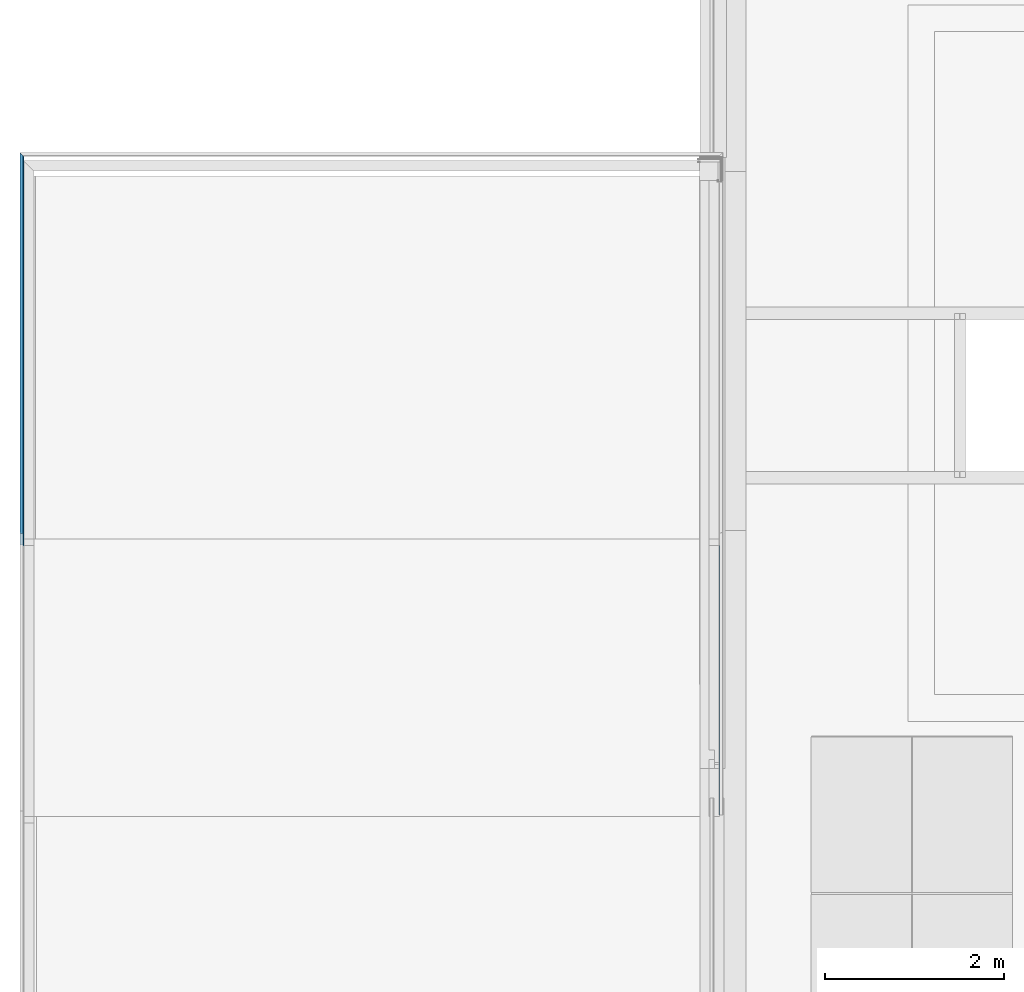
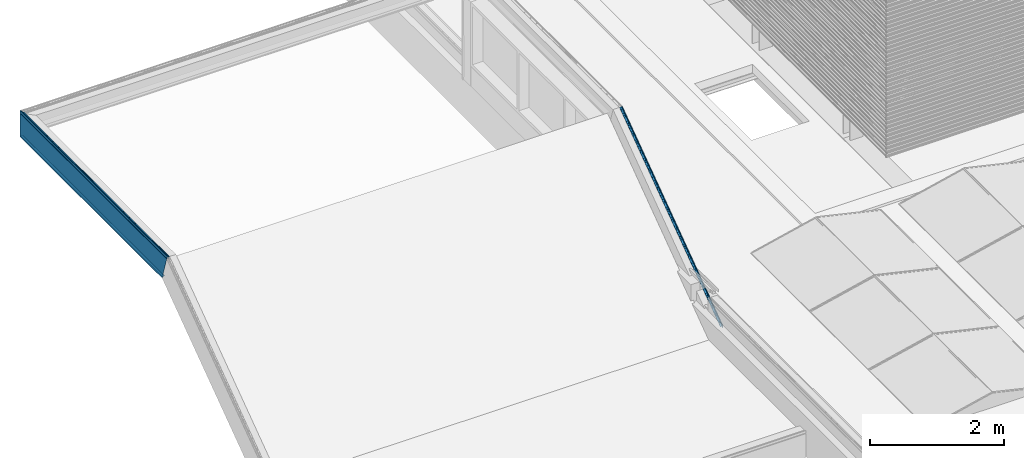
# One storey, part 20 of 63: 4 building element parts, 2 elements without a shape of their own.
"""IFC2X3 building model written with IfcOpenShell, lengths in millimetres."""

from ifc_helpers import new_model, entity, si_unit, converted_unit, derived_unit, money_unit, direction, frame, origin_with_axes, place, context, subcontext, project, spatial, faceted_brep, material, type_object, element, aggregate, save


model = new_model("IFC2X3")

# Units and contexts
model_context = context("Model", 3, precision=0.01, world=origin_with_axes(), true_north=direction((0.0, 1.0)))
body_context = subcontext(model_context, "Body", "Model", "MODEL_VIEW")
ifc_project = project(units=[si_unit("LENGTHUNIT", "METRE", prefix="MILLI"), si_unit("AREAUNIT", "SQUARE_METRE"), si_unit("VOLUMEUNIT", "CUBIC_METRE"), converted_unit("PLANEANGLEUNIT", "DEGREE", entity("IfcPlaneAngleMeasure", 0.0174532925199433), si_unit("PLANEANGLEUNIT", "RADIAN"), dimensions=[0, 0, 0, 0, 0, 0, 0]), money_unit("EUR"), converted_unit("TIMEUNIT", "Year", entity("IfcTimeMeasure", 31557600.0), si_unit("TIMEUNIT", "SECOND"), dimensions=[0, 0, 1, 0, 0, 0, 0]), si_unit("MASSUNIT", "GRAM", prefix="KILO"), si_unit("THERMODYNAMICTEMPERATUREUNIT", "DEGREE_CELSIUS"), si_unit("LUMINOUSINTENSITYUNIT", "LUMEN"), si_unit("ENERGYUNIT", "JOULE", prefix="MEGA"), derived_unit("THERMALCONDUCTANCEUNIT", [(si_unit("POWERUNIT", "WATT"), 1), (si_unit("LENGTHUNIT", "METRE"), -1), (si_unit("THERMODYNAMICTEMPERATUREUNIT", "KELVIN"), -1)]), derived_unit("SPECIFICHEATCAPACITYUNIT", [(si_unit("ENERGYUNIT", "JOULE"), 1), (si_unit("MASSUNIT", "GRAM", prefix="KILO"), -1), (si_unit("THERMODYNAMICTEMPERATUREUNIT", "KELVIN"), -1)]), derived_unit("MASSDENSITYUNIT", [(si_unit("MASSUNIT", "GRAM", prefix="KILO"), 1), (si_unit("VOLUMEUNIT", "CUBIC_METRE"), -1)])], contexts=[model_context])

# Site, building, storey
site_placement = place(None, origin_with_axes())
site = spatial("IfcSite", under=ifc_project, at=site_placement, Name="<site naam>", CompositionType="ELEMENT")
building_placement = place(site_placement, origin_with_axes())
building = spatial("IfcBuilding", under=site, at=building_placement, Name="<Naam gebouw>", CompositionType="ELEMENT")
storey_placement = place(building_placement, frame((0.0, 0.0, 12770.0), z_axis=(0.0, 0.0, 1.0), x_axis=(1.0, 0.0, 0.0)))
storey = spatial("IfcBuildingStorey", under=building, at=storey_placement, Name="04 4e verdieping", CompositionType="ELEMENT", Elevation=12770.0)

# Beam, building element parts
beam_type = type_object("IfcBeamType", Name="Aluminium daktrim (hoofdtrap) 45 x 485", PredefinedType="BEAM")
beam_1_placement = place(storey_placement, frame((3961.493419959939, 12322.88191684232, 1715.97308244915), z_axis=(0.0, 0.0, 1.0), x_axis=(-1.0, 0.0, 0.0)))
beam_1 = element("IfcBeam", 1, at=beam_1_placement, inside=storey, type_object=beam_type, Name="47_Balk_Aluminium", ObjectType="BEAM")
ifc_material = material(Name="aluminium")
building_element_part_1_placement = place(beam_1_placement, origin_with_axes())
building_element_part_1 = element("IfcBuildingElementPart", 2, at=building_element_part_1_placement, material=ifc_material, Name="aluminium", context=body_context, shape_type="Brep", body=[
    faceted_brep([(-121.4991945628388, 4509.953551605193, 294.0656451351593), (-122.2068758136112, 4509.858622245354, 293.7721760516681), (-122.2068758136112, 122.2071251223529, 293.7721760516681), (-121.4991945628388, 121.4994424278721, 294.0656451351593), (-110.9991946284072, 4509.953551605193, 294.0656451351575), (-110.2920878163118, 4509.858808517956, 293.7727519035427), (-109.9991945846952, 4509.630078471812, 293.0656450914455), (-109.9991945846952, 4495.720734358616, 250.0656451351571), (-110.2920878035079, 4495.492004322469, 249.3585383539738), (-110.9991945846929, 4495.397261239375, 249.0656451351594), (-111.4991731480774, 4495.44059441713, 249.1996073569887), (-117.6977781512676, 4496.598162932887, 252.7781690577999), (-117.9774779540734, 4496.716057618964, 253.1426342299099), (-117.9175736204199, 4496.863398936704, 253.598132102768), (-117.5531500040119, 4496.953891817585, 253.8778860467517), (-117.0976432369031, 4496.934536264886, 253.8180493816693), (-113.8976320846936, 4496.337354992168, 251.9718951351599), (-113.8976320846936, 4496.529417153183, 252.565645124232), (-113.7511854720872, 4496.643782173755, 252.9191985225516), (-113.3976320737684, 4496.691153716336, 253.0656451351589), (-113.1984133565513, 4496.691153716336, 253.0656451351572), (-112.8448599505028, 4496.643782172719, 252.9191985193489), (-112.6984133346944, 4496.529417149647, 252.5656451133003), (-112.6984133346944, 4496.113071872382, 251.278535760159), (-111.9489165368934, 4495.972910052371, 250.8452329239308), (-111.6116899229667, 4495.953621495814, 250.7856033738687), (-111.3150643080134, 4496.008982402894, 250.9567486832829), (-111.1979101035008, 4496.113074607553, 251.278544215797), (-111.1984133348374, 4505.748403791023, 281.0656535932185), (-111.3448629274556, 4505.862767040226, 281.419201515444), (-111.6984133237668, 4505.910137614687, 281.5656451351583), (-112.1984133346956, 4505.910137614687, 281.5656451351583), (-112.5519667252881, 4505.862766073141, 281.4191985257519), (-112.6984133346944, 4505.748401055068, 281.0656451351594), (-112.6984133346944, 4505.263191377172, 279.5656451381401), (-112.8448599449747, 4505.148826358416, 279.212091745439), (-113.1984133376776, 4505.101454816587, 279.065645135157), (-114.9718508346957, 4505.101454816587, 279.0656451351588), (-120.1773366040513, 4504.027684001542, 275.7461395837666), (-120.3116945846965, 4503.923810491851, 275.4250201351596), (-120.5695070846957, 4503.888430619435, 275.3156451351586), (-120.889819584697, 4503.931391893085, 275.4484576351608), (-121.5401955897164, 4503.852987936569, 275.2060759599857), (-121.694507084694, 4503.753228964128, 274.8976763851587), (-121.9640383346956, 4503.72416692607, 274.8078326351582), (-122.2726320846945, 4503.774709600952, 274.964082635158), (-128.1981216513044, 4503.484214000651, 274.066030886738), (-154.6486035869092, 4503.484089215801, 274.0656451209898), (-154.8951277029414, 4503.517119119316, 274.1677553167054), (-154.9972414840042, 4503.596862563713, 274.4142779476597), (-154.8947842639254, 4503.67671725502, 274.6611444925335), (-154.6476320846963, 4503.709635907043, 274.7629107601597), (-149.9991945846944, 4503.872004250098, 275.2648638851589), (-149.698413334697, 4503.969298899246, 275.5656451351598), (-147.2999758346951, 4503.969298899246, 275.5656451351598), (-146.9991945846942, 4503.872004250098, 275.2648638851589), (-143.9991945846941, 4503.872004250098, 275.2648638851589), (-143.6984133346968, 4503.969298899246, 275.5656451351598), (-141.2999758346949, 4503.969298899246, 275.5656451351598), (-140.9991945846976, 4503.872004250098, 275.2648638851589), (-137.9991945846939, 4503.872004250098, 275.2648638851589), (-137.6984133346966, 4503.969298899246, 275.5656451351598), (-135.2999758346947, 4503.969298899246, 275.5656451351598), (-134.9991945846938, 4503.872004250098, 275.2648638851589), (-131.9991945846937, 4503.872004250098, 275.2648638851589), (-131.6984133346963, 4503.969298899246, 275.5656451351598), (-129.2999758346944, 4503.969298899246, 275.5656451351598), (-128.9991945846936, 4503.872004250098, 275.2648638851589), (-128.1984107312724, 4503.872004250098, 275.2648638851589), (-120.015863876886, 4504.478198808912, 277.1388822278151), (-113.4645529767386, 4506.175934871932, 282.3873432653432), (-112.6841977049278, 4506.297831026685, 282.7641787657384), (-112.1970030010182, 4506.298053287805, 282.7648658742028), (-111.490808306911, 4506.392957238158, 283.0582564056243), (-111.1984133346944, 4506.621525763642, 283.7648638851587), (-111.1984133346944, 4509.403900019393, 292.3664263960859), (-111.3448599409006, 4509.518265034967, 292.719979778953), (-111.6984133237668, 4509.565636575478, 292.8664263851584), (-120.7999758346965, 4509.565636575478, 292.8664263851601), (-121.153529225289, 4509.518265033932, 292.7199797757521), (-121.2999758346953, 4509.403900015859, 292.3664263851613), (-121.2999758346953, 4508.853616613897, 290.6652544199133), (-121.4748532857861, 4508.716970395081, 290.2428198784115), (-121.8971453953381, 4508.660291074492, 290.0675987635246), (-122.3197220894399, 4508.716748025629, 290.2421324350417), (-122.4952867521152, 4508.853302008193, 290.6642818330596), (-122.4991919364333, 4509.629552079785, 293.0640177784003), (-122.4991919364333, 122.4994418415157, 293.0640177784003), (-122.4952867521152, 122.4955366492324, 290.6642818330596), (-122.3197220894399, 122.3199716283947, 290.2421324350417), (-121.8971453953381, 121.8973940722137, 290.0675987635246), (-121.4748532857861, 121.4751011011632, 290.2428198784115), (-121.2999758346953, 121.3002232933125, 290.6652544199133), (-121.2999758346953, 121.3002232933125, 292.3664263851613), (-121.153529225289, 121.153776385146, 292.7199797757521), (-120.7999758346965, 120.8002222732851, 292.8664263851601), (-111.6984133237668, 111.6986411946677, 292.8664263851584), (-111.3448599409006, 111.3450870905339, 292.719979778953), (-111.1984133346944, 111.1986401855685, 292.3664263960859), (-111.1984133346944, 111.1986401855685, 283.7648638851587), (-111.490808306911, 111.4910357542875, 283.0582564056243), (-112.1970030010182, 112.1972318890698, 282.7648658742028), (-112.6841977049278, 112.6844275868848, 282.7641787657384), (-113.4645529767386, 113.4647844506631, 282.3873432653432), (-120.015863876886, 120.0161087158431, 277.1388822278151), (-128.1984107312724, 128.1986722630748, 275.2648638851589), (-128.9991945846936, 128.9994577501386, 275.2648638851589), (-129.2999758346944, 129.3002396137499, 275.5656451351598), (-131.6984133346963, 131.6986820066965, 275.5656451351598), (-131.9991945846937, 131.9994638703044, 275.2648638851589), (-134.9991945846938, 134.9994699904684, 275.2648638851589), (-135.2999758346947, 135.3002518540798, 275.5656451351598), (-137.6984133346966, 137.6986942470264, 275.5656451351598), (-137.9991945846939, 137.9994761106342, 275.2648638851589), (-140.9991945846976, 140.9994822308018, 275.2648638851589), (-141.2999758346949, 141.3002640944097, 275.5656451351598), (-143.6984133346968, 143.6987064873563, 275.5656451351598), (-143.9991945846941, 143.9994883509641, 275.2648638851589), (-146.9991945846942, 146.9994944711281, 275.2648638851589), (-147.2999758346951, 147.3002763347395, 275.5656451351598), (-149.698413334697, 149.6987187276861, 275.5656451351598), (-149.9991945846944, 149.9995005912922, 275.2648638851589), (-154.6476320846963, 154.6479475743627, 274.7629107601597), (-154.8947842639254, 154.8951002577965, 274.6611444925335), (-154.9972414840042, 154.9975576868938, 274.4142779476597), (-154.8951277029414, 154.8954436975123, 274.1677553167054), (-154.6486035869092, 154.6489190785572, 274.0656451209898), (-128.1981216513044, 128.198383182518, 274.066030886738), (-122.2726320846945, 122.272881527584, 274.964082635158), (-121.9640383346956, 121.9642871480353, 274.8078326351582), (-121.694507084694, 121.6947553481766, 274.8976763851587), (-121.5401955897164, 121.5404435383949, 275.2060759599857), (-120.889819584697, 120.8900662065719, 275.4484576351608), (-120.5695070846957, 120.5697530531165, 275.3156451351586), (-120.3116945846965, 120.3119400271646, 275.4250201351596), (-120.1773366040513, 120.1775817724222, 275.7461395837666), (-114.9718508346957, 114.9720853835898, 279.0656451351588), (-113.1984133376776, 113.1986442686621, 279.065645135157), (-112.8448599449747, 112.8450901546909, 279.212091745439), (-112.6984133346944, 112.6986432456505, 279.5656451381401), (-112.6984133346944, 112.6986432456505, 281.0656451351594), (-112.5519667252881, 112.5521963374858, 281.4191985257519), (-112.1984133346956, 112.1986422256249, 281.5656451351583), (-111.6984133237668, 111.6986411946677, 281.5656451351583), (-111.3448629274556, 111.345090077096, 281.419201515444), (-111.1984133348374, 111.1986401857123, 281.0656535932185), (-111.1979101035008, 111.1981369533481, 251.278544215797), (-111.3150643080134, 111.3152913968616, 250.9567486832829), (-111.6116899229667, 111.6119176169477, 250.7856033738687), (-111.9489165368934, 111.9491449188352, 250.8452329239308), (-112.6984133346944, 112.6986432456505, 251.278535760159), (-112.6984133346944, 112.6986432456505, 252.5656451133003), (-112.8448599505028, 112.8450901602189, 252.9191985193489), (-113.1984133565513, 113.1986442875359, 253.0656451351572), (-113.3976320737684, 113.3978634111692, 253.0656451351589), (-113.7511854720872, 113.7514175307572, 252.9191985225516), (-113.8976320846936, 113.8978644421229, 252.565645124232), (-113.8976320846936, 113.8978644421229, 251.9718951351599), (-117.0976432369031, 117.0978821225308, 253.8180493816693), (-117.5531500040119, 117.5533898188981, 253.8778860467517), (-117.9175736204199, 117.9178141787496, 253.598132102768), (-117.9774779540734, 117.9777186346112, 253.1426342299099), (-117.6977781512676, 117.6980182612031, 252.7781690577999), (-111.4991731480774, 111.4994006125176, 249.1996073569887), (-110.9991945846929, 110.9994210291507, 249.0656451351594), (-110.2920878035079, 110.2923128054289, 249.3585383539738), (-109.9991945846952, 109.9994189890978, 250.0656451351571), (-109.9991945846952, 109.9994189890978, 293.0656450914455), (-110.2920878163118, 110.2923128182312, 293.7727519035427), (-110.9991946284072, 110.9994210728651, 294.0656451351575)], [[[0, 1, 2, 3]], [[0, 4, 5, 6, 7, 8, 9, 10, 11, 12, 13, 14, 15, 16, 17, 18, 19, 20, 21, 22, 23, 24, 25, 26, 27, 28, 29, 30, 31, 32, 33, 34, 35, 36, 37, 38, 39, 40, 41, 42, 43, 44, 45, 46, 47, 48, 49, 50, 51, 52, 53, 54, 55, 56, 57, 58, 59, 60, 61, 62, 63, 64, 65, 66, 67, 68, 69, 70, 71, 72, 73, 74, 75, 76, 77, 78, 79, 80, 81, 82, 83, 84, 85, 86, 1]], [[1, 86, 87, 2]], [[3, 2, 87, 88, 89, 90, 91, 92, 93, 94, 95, 96, 97, 98, 99, 100, 101, 102, 103, 104, 105, 106, 107, 108, 109, 110, 111, 112, 113, 114, 115, 116, 117, 118, 119, 120, 121, 122, 123, 124, 125, 126, 127, 128, 129, 130, 131, 132, 133, 134, 135, 136, 137, 138, 139, 140, 141, 142, 143, 144, 145, 146, 147, 148, 149, 150, 151, 152, 153, 154, 155, 156, 157, 158, 159, 160, 161, 162, 163, 164, 165, 166, 167, 168, 169]], [[4, 0, 3, 169]], [[5, 4, 169, 168]], [[6, 5, 168, 167]], [[7, 6, 167, 166]], [[8, 7, 166, 165]], [[9, 8, 165, 164]], [[10, 9, 164, 163]], [[11, 10, 163, 162]], [[12, 11, 162, 161]], [[13, 12, 161, 160]], [[14, 13, 160, 159]], [[15, 14, 159, 158]], [[16, 15, 158, 157]], [[17, 16, 157, 156]], [[18, 17, 156, 155]], [[19, 18, 155, 154]], [[20, 19, 154, 153]], [[21, 20, 153, 152]], [[22, 21, 152, 151]], [[23, 22, 151, 150]], [[24, 23, 150, 149]], [[25, 24, 149, 148]], [[26, 25, 148, 147]], [[27, 26, 147, 146]], [[28, 27, 146, 145]], [[29, 28, 145, 144]], [[30, 29, 144, 143]], [[31, 30, 143, 142]], [[32, 31, 142, 141]], [[33, 32, 141, 140]], [[34, 33, 140, 139]], [[35, 34, 139, 138]], [[36, 35, 138, 137]], [[37, 36, 137, 136]], [[38, 37, 136, 135]], [[39, 38, 135, 134]], [[40, 39, 134, 133]], [[41, 40, 133, 132]], [[42, 41, 132, 131]], [[43, 42, 131, 130]], [[44, 43, 130, 129]], [[45, 44, 129, 128]], [[46, 45, 128, 127]], [[47, 46, 127, 126]], [[48, 47, 126, 125]], [[49, 48, 125, 124]], [[50, 49, 124, 123]], [[51, 50, 123, 122]], [[52, 51, 122, 121]], [[53, 52, 121, 120]], [[54, 53, 120, 119]], [[55, 54, 119, 118]], [[56, 55, 118, 117]], [[57, 56, 117, 116]], [[58, 57, 116, 115]], [[59, 58, 115, 114]], [[60, 59, 114, 113]], [[61, 60, 113, 112]], [[62, 61, 112, 111]], [[63, 62, 111, 110]], [[64, 63, 110, 109]], [[65, 64, 109, 108]], [[66, 65, 108, 107]], [[67, 66, 107, 106]], [[68, 67, 106, 105]], [[69, 68, 105, 104]], [[70, 69, 104, 103]], [[71, 70, 103, 102]], [[72, 71, 102, 101]], [[73, 72, 101, 100]], [[74, 73, 100, 99]], [[75, 74, 99, 98]], [[76, 75, 98, 97]], [[77, 76, 97, 96]], [[78, 77, 96, 95]], [[79, 78, 95, 94]], [[80, 79, 94, 93]], [[81, 80, 93, 92]], [[82, 81, 92, 91]], [[83, 82, 91, 90]], [[84, 83, 90, 89]], [[85, 84, 89, 88]], [[86, 85, 88, 87]]]),
])
building_element_part_2_placement = place(beam_1_placement, origin_with_axes())
building_element_part_2 = element("IfcBuildingElementPart", 3, at=building_element_part_2_placement, material=ifc_material, Name="aluminium", context=body_context, shape_type="Brep", body=[
    faceted_brep([(-112.0058939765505, 4354.848186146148, -185.434369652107), (-112.0058939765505, 4361.317653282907, -165.4343549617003), (-112.0058939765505, 112.00612247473, -165.4343549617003), (-112.0058939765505, 112.00612247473, -185.434369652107), (-113.2058874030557, 4354.848186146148, -185.434369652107), (-113.2058874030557, 4360.991941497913, -166.4412756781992), (-145.005887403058, 4362.805719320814, -160.8340776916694), (-145.005887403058, 4367.787115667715, -145.4343549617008), (-143.8058874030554, 4367.787115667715, -145.4343549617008), (-143.8058874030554, 4363.131430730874, -159.8271581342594), (-143.8058874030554, 143.806180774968, -159.8271581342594), (-143.8058874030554, 143.806180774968, -145.4343549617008), (-145.005887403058, 145.0061832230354, -145.4343549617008), (-145.005887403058, 145.0061832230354, -160.8340776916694), (-113.2058874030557, 113.2061183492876, -166.4412756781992), (-113.2058874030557, 113.2061183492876, -185.434369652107)], [[[0, 1, 2, 3]], [[0, 4, 5, 6, 7, 8, 9, 1]], [[1, 9, 10, 2]], [[3, 2, 10, 11, 12, 13, 14, 15]], [[4, 0, 3, 15]], [[5, 4, 15, 14]], [[6, 5, 14, 13]], [[7, 6, 13, 12]], [[8, 7, 12, 11]], [[9, 8, 11, 10]]]),
])
building_element_part_3_placement = place(beam_1_placement, origin_with_axes())
building_element_part_3 = element("IfcBuildingElementPart", 4, at=building_element_part_3_placement, material=ifc_material, Name="aluminium", context=body_context, shape_type="Brep", body=[
    faceted_brep([(-145.005887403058, 4493.153819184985, 242.1301629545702), (-111.1979101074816, 4491.742725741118, 237.7678423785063), (-111.1979101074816, 111.1981369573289, 237.7678423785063), (-145.005887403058, 145.0061832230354, 242.1301629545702), (-145.005887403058, 4496.691095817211, 253.0654661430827), (-143.8058874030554, 4496.691095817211, 253.0654661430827), (-143.8058874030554, 4493.573232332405, 243.4267564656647), (-110.0058874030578, 4492.162472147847, 239.0654661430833), (-110.0058874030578, 4353.06908601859, -190.9343633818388), (-115.2058874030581, 4353.06908601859, -190.9343633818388), (-115.2058874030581, 4358.729865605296, -173.4343633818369), (-114.0058874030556, 4358.729865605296, -173.4343633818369), (-114.0058874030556, 4353.457253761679, -189.7343633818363), (-111.1979101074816, 4353.457253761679, -189.7343633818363), (-111.1979101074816, 111.1981369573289, -189.7343633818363), (-114.0058874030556, 114.0061199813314, -189.7343633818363), (-114.0058874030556, 114.0061199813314, -173.4343633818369), (-115.2058874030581, 115.2061224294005, -173.4343633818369), (-115.2058874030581, 115.2061224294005, -190.9343633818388), (-110.0058874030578, 110.0061118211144, -190.9343633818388), (-110.0058874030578, 110.0061118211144, 239.0654661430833), (-143.8058874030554, 143.806180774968, 243.4267564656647), (-143.8058874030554, 143.806180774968, 253.0654661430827), (-145.005887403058, 145.0061832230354, 253.0654661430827)], [[[0, 1, 2, 3]], [[0, 4, 5, 6, 7, 8, 9, 10, 11, 12, 13, 1]], [[1, 13, 14, 2]], [[3, 2, 14, 15, 16, 17, 18, 19, 20, 21, 22, 23]], [[4, 0, 3, 23]], [[5, 4, 23, 22]], [[6, 5, 22, 21]], [[7, 6, 21, 20]], [[8, 7, 20, 19]], [[9, 8, 19, 18]], [[10, 9, 18, 17]], [[11, 10, 17, 16]], [[12, 11, 16, 15]], [[13, 12, 15, 14]]]),
])
aggregate(beam_1, [building_element_part_1, building_element_part_2, building_element_part_3])

# Beam, building element part
beam_2_placement = place(storey_placement, frame((12028.4133810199, 7930.472148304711, 1726.973082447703), z_axis=(0.0, 0.0, 1.0), x_axis=(-1.0, 0.0, 0.0)))
beam_2 = element("IfcBeam", 5, at=beam_2_placement, inside=storey, type_object=beam_type, Name="47_Balk_Aluminium", ObjectType="BEAM")
building_element_part_4_placement = place(beam_2_placement, origin_with_axes())
building_element_part_4 = element("IfcBuildingElementPart", 6, at=building_element_part_4_placement, material=ifc_material, Name="aluminium", context=body_context, shape_type="Brep", body=[
    faceted_brep([(110.9991946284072, 3115.354588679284, -1888.203697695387), (110.2920878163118, 3115.354588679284, -1888.565047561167), (110.2920878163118, 110.2514473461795, 282.772749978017), (110.9991946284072, 110.3461902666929, 283.0656433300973), (121.4991945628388, 3115.354588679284, -1888.203697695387), (122.2068758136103, 3115.354588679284, -1888.565758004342), (122.4991919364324, 3115.354588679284, -1889.439430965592), (122.4952867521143, 3115.354588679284, -1892.400046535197), (122.3197220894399, 3115.354588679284, -1892.920863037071), (121.8971453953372, 3115.354588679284, -1893.136189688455), (121.4748532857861, 3115.354588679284, -1892.920014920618), (121.2999758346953, 3115.354588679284, -1892.398846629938), (121.2999758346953, 3115.354588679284, -1890.300067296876), (121.153529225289, 3115.354588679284, -1889.863879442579), (120.7999758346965, 3115.354588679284, -1889.683204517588), (111.6984133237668, 3115.354588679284, -1889.683204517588), (111.3448599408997, 3115.354588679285, -1889.863879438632), (111.1984133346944, 3115.354588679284, -1890.300067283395), (111.1984133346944, 3115.354588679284, -1900.912034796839), (111.490808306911, 3115.354588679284, -1901.783794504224), (112.1970030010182, 3115.354588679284, -1902.145757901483), (112.6841977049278, 3115.354588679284, -1902.146605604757), (113.4645529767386, 3115.354588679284, -1902.611517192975), (120.0158638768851, 3115.354588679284, -1909.086677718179), (128.1984107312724, 3115.354588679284, -1911.398702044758), (128.9991945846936, 3115.354588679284, -1911.398702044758), (129.2999758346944, 3115.354588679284, -1911.027620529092), (131.6984133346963, 3115.354588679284, -1911.027620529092), (131.9991945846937, 3115.354588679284, -1911.398702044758), (134.9991945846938, 3115.354588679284, -1911.398702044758), (135.2999758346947, 3115.354588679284, -1911.027620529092), (137.6984133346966, 3115.354588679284, -1911.027620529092), (137.9991945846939, 3115.354588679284, -1911.398702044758), (140.9991945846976, 3115.354588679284, -1911.398702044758), (141.2999758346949, 3115.354588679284, -1911.027620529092), (143.6984133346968, 3115.354588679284, -1911.027620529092), (143.9991945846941, 3115.354588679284, -1911.398702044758), (146.9991945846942, 3115.354588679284, -1911.398702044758), (147.2999758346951, 3115.354588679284, -1911.027620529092), (149.698413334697, 3115.354588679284, -1911.027620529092), (149.9991945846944, 3115.354588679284, -1911.398702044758), (154.6476320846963, 3115.354588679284, -1912.017974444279), (154.8947842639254, 3115.354588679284, -1912.143526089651), (154.9972414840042, 3115.354588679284, -1912.448091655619), (154.8951277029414, 3115.354588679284, -1912.752232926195), (154.6486035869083, 3115.354588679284, -1912.87820888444), (128.1981216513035, 3115.354588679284, -1912.877732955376), (122.2726320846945, 3115.354588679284, -1911.769783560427), (121.9640383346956, 3115.354588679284, -1911.962553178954), (121.694507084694, 3115.354588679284, -1911.8517106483), (121.5401955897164, 3115.354588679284, -1911.471230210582), (120.889819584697, 3115.354588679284, -1911.172197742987), (120.5695070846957, 3115.354588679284, -1911.336051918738), (120.3116945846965, 3115.354588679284, -1911.201113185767), (120.1773366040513, 3115.354588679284, -1910.804939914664), (114.9718508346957, 3115.354588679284, -1906.709581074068), (113.1984133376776, 3115.354588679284, -1906.709581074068), (112.8448599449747, 3115.354588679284, -1906.528906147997), (112.6984133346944, 3115.354588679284, -1906.092718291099), (112.6984133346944, 3115.354588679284, -1904.242129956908), (112.5519667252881, 3115.354588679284, -1903.805942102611), (112.1984133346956, 3115.354588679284, -1903.62526717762), (111.6984133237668, 3115.354588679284, -1903.62526717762), (111.3448629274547, 3115.354588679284, -1903.805938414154), (111.1984133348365, 3115.354588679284, -1904.242119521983), (111.197910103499, 3115.354588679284, -1940.991237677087), (111.3150643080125, 3115.354588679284, -1941.388245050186), (111.6116899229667, 3115.354588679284, -1941.599391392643), (111.9489165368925, 3115.354588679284, -1941.525824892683), (112.6984133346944, 3115.354588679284, -1940.991248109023), (112.6984133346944, 3115.354588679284, -1939.403308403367), (112.8448599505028, 3115.354588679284, -1938.967120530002), (113.1984133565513, 3115.354588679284, -1938.786445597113), (113.3976320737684, 3115.354588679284, -1938.786445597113), (113.7511854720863, 3115.354588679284, -1938.967120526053), (113.8976320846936, 3115.354588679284, -1939.403308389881), (113.8976320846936, 3115.354588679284, -1940.135832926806), (117.0976432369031, 3115.354588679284, -1937.858185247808), (117.5531500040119, 3115.354588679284, -1937.784363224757), (117.917573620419, 3115.354588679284, -1938.129502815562), (117.9774779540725, 3115.354588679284, -1938.691462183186), (117.6977781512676, 3115.354588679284, -1939.141112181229), (111.4991731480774, 3115.354588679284, -1943.556075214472), (110.9991945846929, 3115.354588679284, -1943.721347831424), (110.2920878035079, 3115.354588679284, -1943.359997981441), (109.9991945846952, 3115.354588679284, -1942.487622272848), (109.9991945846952, 3115.354588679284, -1889.437423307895), (109.9991945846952, 110.0227173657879, 282.0656431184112), (109.9991945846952, 96.11337300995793, 239.0656433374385), (110.2920878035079, 95.8846429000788, 238.3585366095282), (110.9991945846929, 95.78989964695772, 238.0656435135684), (111.4991731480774, 95.83323270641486, 238.1996058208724), (117.6977781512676, 96.9907997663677, 241.7781685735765), (117.9774779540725, 97.10869438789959, 242.1426337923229), (117.917573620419, 97.25603572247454, 242.5981316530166), (117.5531500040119, 97.34652869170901, 242.8778855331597), (117.0976432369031, 97.32717324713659, 242.8180487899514), (113.8976320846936, 96.72999272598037, 240.9718940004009), (113.8976320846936, 96.9220548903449, 241.5656439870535), (113.7511854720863, 97.03641994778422, 241.9191973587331), (113.3976320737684, 97.08379157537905, 242.065643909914), (113.1984133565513, 97.08379162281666, 242.0656438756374), (112.8448599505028, 97.03642016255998, 241.9191971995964), (112.6984133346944, 96.92205517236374, 241.5656437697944), (112.6984133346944, 96.50570988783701, 240.2785344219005), (111.9489165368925, 96.3655482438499, 239.8452314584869), (111.6116899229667, 96.3462597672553, 239.7856018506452), (111.3150643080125, 96.40162074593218, 239.9567471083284), (111.1979101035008, 96.50571298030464, 240.2785426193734), (111.1984133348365, 106.1410423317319, 270.0656518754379), (111.3448629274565, 106.2554055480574, 270.4191998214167), (111.6984133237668, 106.3027760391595, 270.5656435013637), (112.1984133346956, 106.302775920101, 270.5656435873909), (112.5519667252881, 106.25540429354, 270.419197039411), (112.6984133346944, 106.1410392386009, 270.0656436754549), (112.6984133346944, 105.6558295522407, 268.5656436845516), (112.8448599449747, 105.5414644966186, 268.212090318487), (113.1984133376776, 105.4940928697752, 268.0656437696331), (114.9718508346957, 105.494092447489, 268.0656440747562), (120.1773366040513, 104.4203203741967, 264.7461394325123), (120.3116945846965, 104.3164468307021, 264.4250200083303), (120.5695070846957, 104.2810668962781, 264.3156450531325), (120.889819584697, 104.3240280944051, 264.4484576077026), (121.5401955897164, 104.2456239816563, 264.206076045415), (121.694507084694, 104.1458649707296, 263.8976764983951), (121.9640383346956, 104.1168028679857, 263.8078327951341), (122.2726320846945, 104.167345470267, 263.9640828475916), (128.1981216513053, 103.876848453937, 263.0660321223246), (154.6486035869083, 103.8767173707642, 263.0656509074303), (154.8951277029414, 103.9097472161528, 263.1677611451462), (154.9972414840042, 103.9894906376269, 263.4142837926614), (154.8947842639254, 104.0693453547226, 263.6611503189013), (154.6476320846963, 104.1022640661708, 263.7629165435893), (149.9991945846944, 104.264633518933, 264.2648688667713), (149.698413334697, 104.3619282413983, 264.5656500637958), (147.2999758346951, 104.3619288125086, 264.5656496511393), (146.9991945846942, 104.2646342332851, 264.2648683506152), (143.9991945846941, 104.2646349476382, 264.2648678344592), (143.6984133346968, 104.3619296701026, 264.5656490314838), (141.2999758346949, 104.3619302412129, 264.565648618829), (140.9991945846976, 104.2646356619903, 264.264867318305), (137.9991945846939, 104.2646363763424, 264.264866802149), (137.6984133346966, 104.3619310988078, 264.5656479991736), (135.2999758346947, 104.3619316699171, 264.5656475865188), (134.9991945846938, 104.2646370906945, 264.264866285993), (131.9991945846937, 104.2646378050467, 264.2648657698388), (131.6984133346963, 104.361932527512, 264.5656469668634), (129.2999758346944, 104.3619330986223, 264.5656465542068), (128.9991945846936, 104.2646385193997, 264.2648652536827), (128.1984107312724, 104.2646387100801, 264.2648651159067), (120.0158638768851, 104.8708352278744, 266.1388820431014), (113.4645529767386, 106.5685728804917, 271.3873419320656), (112.6841977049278, 106.6904692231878, 271.7641772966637), (112.1970030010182, 106.6906916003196, 271.7648643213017), (111.490808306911, 106.7855957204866, 272.058254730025), (111.1984133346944, 107.0141643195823, 272.7648621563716), (111.1984133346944, 109.7965386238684, 281.3664246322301), (111.3448599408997, 109.9109036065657, 281.7199780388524), (111.6984133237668, 109.9582750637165, 281.8664247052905), (120.7999758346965, 109.9582728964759, 281.8664262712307), (121.153529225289, 109.9109012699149, 281.7199797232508), (121.2999758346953, 109.7965362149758, 281.3664263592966), (121.2999758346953, 109.2462528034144, 279.6652544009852), (121.4748532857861, 109.1096065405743, 279.2428198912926), (121.8971453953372, 109.0529271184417, 279.0675988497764), (122.3197220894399, 109.1093839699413, 279.2421325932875), (122.4952867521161, 109.245937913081, 279.664282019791), (122.4991919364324, 110.0221879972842, 282.064017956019), (122.2068758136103, 110.2512582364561, 282.7721761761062), (121.4991945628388, 110.34618776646, 283.0656451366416)], [[[0, 1, 2, 3]], [[0, 4, 5, 6, 7, 8, 9, 10, 11, 12, 13, 14, 15, 16, 17, 18, 19, 20, 21, 22, 23, 24, 25, 26, 27, 28, 29, 30, 31, 32, 33, 34, 35, 36, 37, 38, 39, 40, 41, 42, 43, 44, 45, 46, 47, 48, 49, 50, 51, 52, 53, 54, 55, 56, 57, 58, 59, 60, 61, 62, 63, 64, 65, 66, 67, 68, 69, 70, 71, 72, 73, 74, 75, 76, 77, 78, 79, 80, 81, 82, 83, 84, 85, 86, 1]], [[1, 86, 87, 2]], [[3, 2, 87, 88, 89, 90, 91, 92, 93, 94, 95, 96, 97, 98, 99, 100, 101, 102, 103, 104, 105, 106, 107, 108, 109, 110, 111, 112, 113, 114, 115, 116, 117, 118, 119, 120, 121, 122, 123, 124, 125, 126, 127, 128, 129, 130, 131, 132, 133, 134, 135, 136, 137, 138, 139, 140, 141, 142, 143, 144, 145, 146, 147, 148, 149, 150, 151, 152, 153, 154, 155, 156, 157, 158, 159, 160, 161, 162, 163, 164, 165, 166, 167, 168, 169]], [[4, 0, 3, 169]], [[5, 4, 169, 168]], [[6, 5, 168, 167]], [[7, 6, 167, 166]], [[8, 7, 166, 165]], [[9, 8, 165, 164]], [[10, 9, 164, 163]], [[11, 10, 163, 162]], [[12, 11, 162, 161]], [[13, 12, 161, 160]], [[14, 13, 160, 159]], [[15, 14, 159, 158]], [[16, 15, 158, 157]], [[17, 16, 157, 156]], [[18, 17, 156, 155]], [[19, 18, 155, 154]], [[20, 19, 154, 153]], [[21, 20, 153, 152]], [[22, 21, 152, 151]], [[23, 22, 151, 150]], [[24, 23, 150, 149]], [[25, 24, 149, 148]], [[26, 25, 148, 147]], [[27, 26, 147, 146]], [[28, 27, 146, 145]], [[29, 28, 145, 144]], [[30, 29, 144, 143]], [[31, 30, 143, 142]], [[32, 31, 142, 141]], [[33, 32, 141, 140]], [[34, 33, 140, 139]], [[35, 34, 139, 138]], [[36, 35, 138, 137]], [[37, 36, 137, 136]], [[38, 37, 136, 135]], [[39, 38, 135, 134]], [[40, 39, 134, 133]], [[41, 40, 133, 132]], [[42, 41, 132, 131]], [[43, 42, 131, 130]], [[44, 43, 130, 129]], [[45, 44, 129, 128]], [[46, 45, 128, 127]], [[47, 46, 127, 126]], [[48, 47, 126, 125]], [[49, 48, 125, 124]], [[50, 49, 124, 123]], [[51, 50, 123, 122]], [[52, 51, 122, 121]], [[53, 52, 121, 120]], [[54, 53, 120, 119]], [[55, 54, 119, 118]], [[56, 55, 118, 117]], [[57, 56, 117, 116]], [[58, 57, 116, 115]], [[59, 58, 115, 114]], [[60, 59, 114, 113]], [[61, 60, 113, 112]], [[62, 61, 112, 111]], [[63, 62, 111, 110]], [[64, 63, 110, 109]], [[65, 64, 109, 108]], [[66, 65, 108, 107]], [[67, 66, 107, 106]], [[68, 67, 106, 105]], [[69, 68, 105, 104]], [[70, 69, 104, 103]], [[71, 70, 103, 102]], [[72, 71, 102, 101]], [[73, 72, 101, 100]], [[74, 73, 100, 99]], [[75, 74, 99, 98]], [[76, 75, 98, 97]], [[77, 76, 97, 96]], [[78, 77, 96, 95]], [[79, 78, 95, 94]], [[80, 79, 94, 93]], [[81, 80, 93, 92]], [[82, 81, 92, 91]], [[83, 82, 91, 90]], [[84, 83, 90, 89]], [[85, 84, 89, 88]], [[86, 85, 88, 87]]]),
])
aggregate(beam_2, [building_element_part_4])

save(model, "model.ifc")
